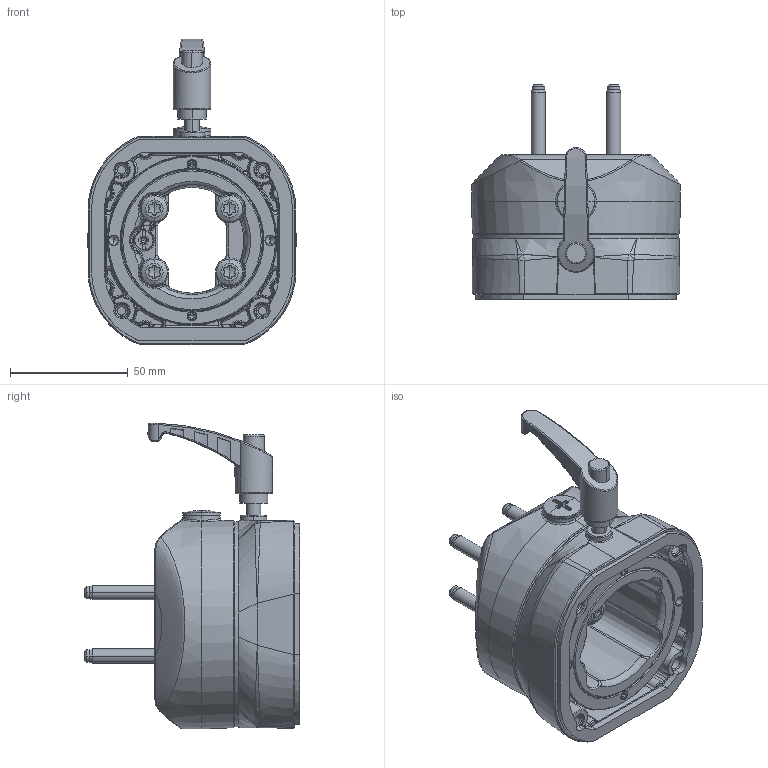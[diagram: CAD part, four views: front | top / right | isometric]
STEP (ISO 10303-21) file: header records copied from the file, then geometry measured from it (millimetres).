
FILE_DESCRIPTION((''),'2;1');
FILE_NAME('1015500001_ASM','2025-07-22T10:33:14',('Falk.Schoember'),(''),'CREO PARAMETRIC BY PTC INC, 2022124','CREO PARAMETRIC BY PTC INC, 2022124','');
FILE_SCHEMA(('AUTOMOTIVE_DESIGN { 1 0 10303 214 1 1 1 1 }'));
Length unit declared in the file: millimetre
Products named in the file (35): 9324253000_AF0; EN_AC-47100-EN_AC-ALSI12CU_FE; 9261441000; 1_0402; 9620501000_ASM; 9641000001_ASM; 9371087000; POM_HOSTAFORM_C9021_GV1_10; 9324254000_AF3; 9620502000_ASM; 9641000002_ASM; 9231840000_AF2; NBR_70GR_SHORE_A; 9411111000_VG00290; CUSN6_HV_180_DIN_17670-1; 9371088000; 9502395000; 11SMNPB30; 9263051000; ST; 9432510000; PA66; 9222005000; KRÜLIT_825_T; 9251096000; PA; 9231841000; NBR_ZELLKAUTSCHUK; 9231842000; 9261655000; 1_4301; 1015500001_ASM
Assembly tree (23 placements, depth 4):
  EN_AC-47100-EN_AC-ALSI12CU_FE
  1_0402
  POM_HOSTAFORM_C9021_GV1_10
  EN_AC-47100-EN_AC-ALSI12CU_FE
  NBR_70GR_SHORE_A
Bounding box: 88.99 x 91.55 x 130.1 mm (x, y, z)
Volume: 243967.2 mm3; surface area: 107505.9 mm2
Topology: 19 solids, 19 shells, 2406 faces, 6147 edges, 3824 vertices
Faces by surface type: plane 1045, bspline 430, cylinder 381, torus 276, cone 249, sphere 25
Entity records: 124064 total; most frequent: CARTESIAN_POINT 37117, ORIENTED_EDGE 11490, DIRECTION 9928, PRESENTATION_STYLE_ASSIGNMENT 7602, STYLED_ITEM 7531, CURVE_STYLE 5745, EDGE_CURVE 5745, VERTEX_POINT 3582
